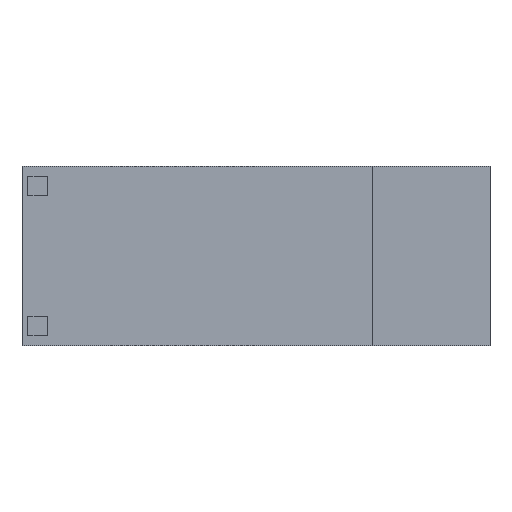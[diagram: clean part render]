
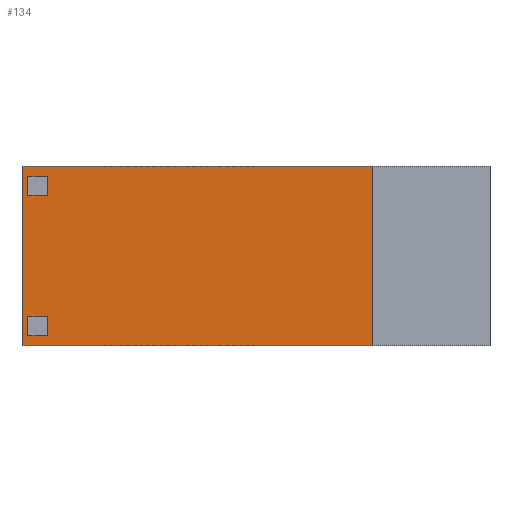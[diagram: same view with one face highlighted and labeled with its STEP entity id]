
A CAD part, top view. The second image highlights one B-rep face of the part: STEP entity #134.
In plain terms, the highlighted planar face has unit normal (0, 0, 1).
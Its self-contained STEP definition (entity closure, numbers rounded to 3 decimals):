
#27=CARTESIAN_POINT('',(0.,0.,4.));
#28=DIRECTION('',(0.,0.,1.));
#29=DIRECTION('',(1.,0.,0.));
#30=AXIS2_PLACEMENT_3D('',#27,#28,#29);
#31=PLANE('',#30);
#32=CARTESIAN_POINT('',(0.75,130.75,4.));
#33=VERTEX_POINT('',#32);
#34=CARTESIAN_POINT('',(3.25,130.75,4.));
#35=VERTEX_POINT('',#34);
#36=CARTESIAN_POINT('',(0.75,130.75,4.));
#37=DIRECTION('',(1.,0.,-0.));
#38=VECTOR('',#37,2.5);
#39=LINE('',#36,#38);
#40=EDGE_CURVE('',#33,#35,#39,.T.);
#41=ORIENTED_EDGE('',*,*,#40,.T.);
#42=CARTESIAN_POINT('',(3.25,128.25,4.));
#43=VERTEX_POINT('',#42);
#44=CARTESIAN_POINT('',(3.25,130.75,4.));
#45=DIRECTION('',(0.,-1.,0.));
#46=VECTOR('',#45,2.5);
#47=LINE('',#44,#46);
#48=EDGE_CURVE('',#35,#43,#47,.T.);
#49=ORIENTED_EDGE('',*,*,#48,.T.);
#50=CARTESIAN_POINT('',(0.75,128.25,4.));
#51=VERTEX_POINT('',#50);
#52=CARTESIAN_POINT('',(3.25,128.25,4.));
#53=DIRECTION('',(-1.,0.,0.));
#54=VECTOR('',#53,2.5);
#55=LINE('',#52,#54);
#56=EDGE_CURVE('',#43,#51,#55,.T.);
#57=ORIENTED_EDGE('',*,*,#56,.T.);
#58=CARTESIAN_POINT('',(0.75,128.25,4.));
#59=DIRECTION('',(0.,1.,0.));
#60=VECTOR('',#59,2.5);
#61=LINE('',#58,#60);
#62=EDGE_CURVE('',#51,#33,#61,.T.);
#63=ORIENTED_EDGE('',*,*,#62,.T.);
#64=EDGE_LOOP('',(#41,#49,#57,#63));
#65=FACE_BOUND('',#64,.T.);
#66=CARTESIAN_POINT('',(3.25,148.75,4.));
#67=VERTEX_POINT('',#66);
#68=CARTESIAN_POINT('',(3.25,146.25,4.));
#69=VERTEX_POINT('',#68);
#70=CARTESIAN_POINT('',(3.25,148.75,4.));
#71=DIRECTION('',(0.,-1.,0.));
#72=VECTOR('',#71,2.5);
#73=LINE('',#70,#72);
#74=EDGE_CURVE('',#67,#69,#73,.T.);
#75=ORIENTED_EDGE('',*,*,#74,.T.);
#76=CARTESIAN_POINT('',(0.75,146.25,4.));
#77=VERTEX_POINT('',#76);
#78=CARTESIAN_POINT('',(3.25,146.25,4.));
#79=DIRECTION('',(-1.,0.,0.));
#80=VECTOR('',#79,2.5);
#81=LINE('',#78,#80);
#82=EDGE_CURVE('',#69,#77,#81,.T.);
#83=ORIENTED_EDGE('',*,*,#82,.T.);
#84=CARTESIAN_POINT('',(0.75,148.75,4.));
#85=VERTEX_POINT('',#84);
#86=CARTESIAN_POINT('',(0.75,146.25,4.));
#87=DIRECTION('',(0.,1.,0.));
#88=VECTOR('',#87,2.5);
#89=LINE('',#86,#88);
#90=EDGE_CURVE('',#77,#85,#89,.T.);
#91=ORIENTED_EDGE('',*,*,#90,.T.);
#92=CARTESIAN_POINT('',(0.75,148.75,4.));
#93=DIRECTION('',(1.,0.,-0.));
#94=VECTOR('',#93,2.5);
#95=LINE('',#92,#94);
#96=EDGE_CURVE('',#85,#67,#95,.T.);
#97=ORIENTED_EDGE('',*,*,#96,.T.);
#98=EDGE_LOOP('',(#75,#83,#91,#97));
#99=FACE_BOUND('',#98,.T.);
#100=CARTESIAN_POINT('',(45.,127.,4.));
#101=VERTEX_POINT('',#100);
#102=CARTESIAN_POINT('',(0.,127.,4.));
#103=VERTEX_POINT('',#102);
#104=CARTESIAN_POINT('',(45.,127.,4.));
#105=DIRECTION('',(-1.,0.,0.));
#106=VECTOR('',#105,45.);
#107=LINE('',#104,#106);
#108=EDGE_CURVE('',#101,#103,#107,.T.);
#109=ORIENTED_EDGE('',*,*,#108,.F.);
#110=CARTESIAN_POINT('',(45.,150.,4.));
#111=VERTEX_POINT('',#110);
#112=CARTESIAN_POINT('',(45.,127.,4.));
#113=DIRECTION('',(0.,1.,0.));
#114=VECTOR('',#113,23.);
#115=LINE('',#112,#114);
#116=EDGE_CURVE('',#101,#111,#115,.T.);
#117=ORIENTED_EDGE('',*,*,#116,.T.);
#118=CARTESIAN_POINT('',(0.,150.,4.));
#119=VERTEX_POINT('',#118);
#120=CARTESIAN_POINT('',(0.,150.,4.));
#121=DIRECTION('',(1.,0.,0.));
#122=VECTOR('',#121,45.);
#123=LINE('',#120,#122);
#124=EDGE_CURVE('',#119,#111,#123,.T.);
#125=ORIENTED_EDGE('',*,*,#124,.F.);
#126=CARTESIAN_POINT('',(0.,127.,4.));
#127=DIRECTION('',(0.,1.,0.));
#128=VECTOR('',#127,23.);
#129=LINE('',#126,#128);
#130=EDGE_CURVE('',#103,#119,#129,.T.);
#131=ORIENTED_EDGE('',*,*,#130,.F.);
#132=EDGE_LOOP('',(#109,#117,#125,#131));
#133=FACE_BOUND('',#132,.T.);
#134=ADVANCED_FACE('',(#65,#99,#133),#31,.T.);
